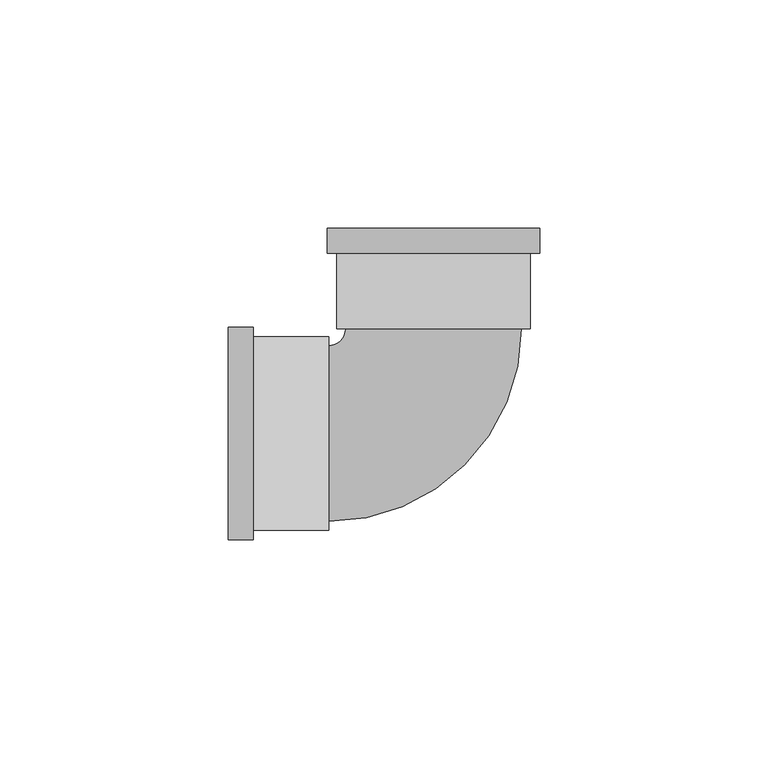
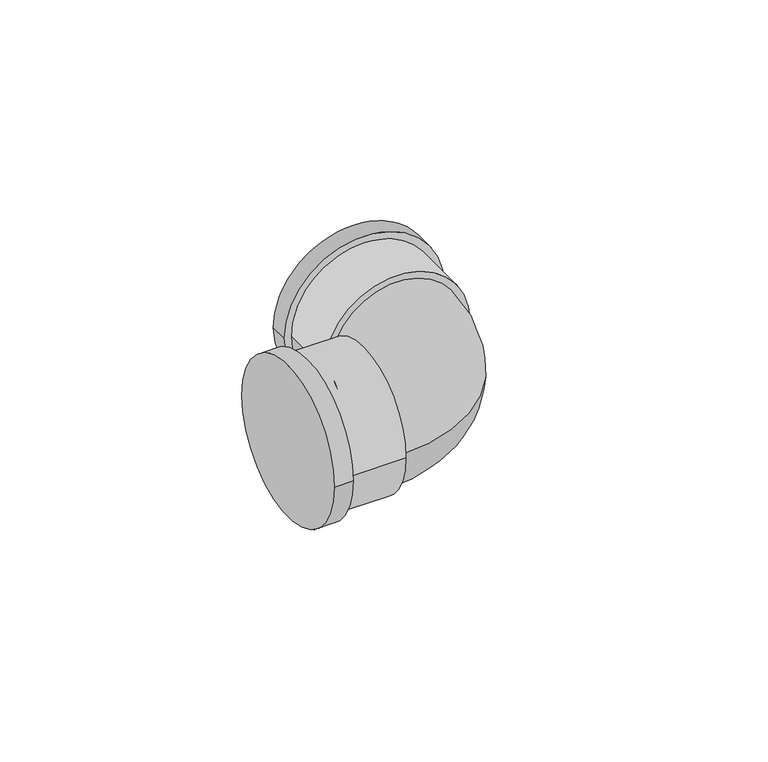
"""IFC4 building model written with IfcOpenShell, lengths in millimetres: pipe fitting geometry, Cotovelo - PVC - CW : Padrão."""

from ifc_helpers import new_model, si_unit, point, frame, origin, place, context, project, spatial, circle_curve, ellipse_curve, trimmed, source, transform, mapped, element, save
from ifc_brep_helpers import plane_surface, cylinder_surface, revolved_surface, advanced_brep


def pipe_fitting_6dd44d3f(model_context):
    return source(origin(), model_context, "Body", "AdvancedBrep", [
        advanced_brep(
        [(-45.0006117, -23.2925, 0.0), (-45.0006117, 23.2925, 0.0), (-39.5006117, -23.2925, 0.0), (-39.5006117, 23.2925, 0.0), (-39.5006117, -21.175, 0.0), (-39.5006117, 21.175, 0.0), (-23.0006117, 21.175, 0.0), (-23.0006117, -21.175, 0.0), (-23.0006117, -19.25, 0.0), (-23.0006117, 19.25, 0.0), (-19.2506117, 23.0000997, 0.0), (19.2493883, 23.0011236, 0.0), (21.1743883, 23.0011748, 0.0), (-21.1756117, 23.0000485, 0.0), (-23.2936967, 44.9999922, 0.0), (23.2913032, 45.0012311, 0.0), (21.1739495, 39.5011748, 0.0), (-21.1760505, 39.5000485, 0.0), (-23.2935505, 39.4999922, 0.0), (23.2914495, 39.5012311, 0.0)],
        [
            (0, 1, circle_curve(frame((-45.0006117, 0.0, 0.0), z_axis=(-1.0, 0.0, 0.0), x_axis=(0.0, 1.0, 0.0)), 23.2925)),
            (1, 0, circle_curve(frame((-45.0006117, 0.0, 0.0), z_axis=(-1.0, 0.0, 0.0), x_axis=(0.0, 1.0, 0.0)), 23.2925)),
            (2, 3, circle_curve(frame((-39.5006117, 0.0, 0.0), z_axis=(1.0, 0.0, 0.0), x_axis=(0.0, 1.0, 0.0)), 23.2925)),
            (3, 2, circle_curve(frame((-39.5006117, 0.0, 0.0), z_axis=(1.0, 0.0, 0.0), x_axis=(0.0, 1.0, 0.0)), 23.2925)),
            (4, 5, circle_curve(frame((-39.5006117, 0.0, 0.0), z_axis=(-1.0, 0.0, 0.0), x_axis=(0.0, -1.0, 0.0)), 21.175)),
            (5, 4, circle_curve(frame((-39.5006117, 0.0, 0.0), z_axis=(-1.0, 0.0, 0.0), x_axis=(0.0, -1.0, 0.0)), 21.175)),
            (0, 2),
            (3, 1),
            (6, 7, circle_curve(frame((-23.0006117, 0.0, 0.0), z_axis=(1.0, 0.0, 0.0), x_axis=(0.0, -1.0, 0.0)), 21.175)),
            (7, 6, circle_curve(frame((-23.0006117, 0.0, 0.0), z_axis=(1.0, 0.0, 0.0), x_axis=(0.0, -1.0, 0.0)), 21.175)),
            (8, 9, circle_curve(frame((-23.0006117, 0.0, 0.0), z_axis=(-1.0, 0.0, 0.0), x_axis=(0.0, 1.0, 0.0)), 19.25)),
            (9, 8, circle_curve(frame((-23.0006117, 0.0, 0.0), z_axis=(-1.0, 0.0, 0.0), x_axis=(0.0, 1.0, 0.0)), 19.25)),
            (6, 5),
            (4, 7),
            (10, 9, circle_curve(frame((-23.0006117, 23.0, 0.0), z_axis=(0.0, 0.0, -1.0), x_axis=(0.0, -1.0, 0.0)), 3.75)),
            (8, 11, circle_curve(frame((-23.0006117, 23.0, 0.0), z_axis=(0.0, 0.0, 1.0), x_axis=(0.0, -1.0, 0.0)), 42.25)),
            (11, 10, circle_curve(frame((-0.0006117, 23.0006117, 0.0), z_axis=(2.6593916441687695e-05, -0.9999999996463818, 0.0), x_axis=(-0.9999999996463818, -2.6593916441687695e-05, 0.0)), 19.25)),
            (10, 11, circle_curve(frame((-0.0006117, 23.0006117, 0.0), z_axis=(2.6593916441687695e-05, -0.9999999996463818, 0.0), x_axis=(-0.9999999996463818, -2.6593916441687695e-05, 0.0)), 19.25)),
            (12, 13, circle_curve(frame((-0.0006117, 23.0006117, 0.0), z_axis=(2.659391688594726e-05, -0.9999999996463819, 0.0), x_axis=(-0.9999999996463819, -2.659391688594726e-05, 0.0)), 21.175)),
            (13, 12, circle_curve(frame((-0.0006117, 23.0006117, 0.0), z_axis=(2.659391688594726e-05, -0.9999999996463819, 0.0), x_axis=(-0.9999999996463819, -2.659391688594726e-05, 0.0)), 21.175)),
            (14, 15, circle_curve(frame((-0.0011967, 45.0006117, 0.0), z_axis=(-2.6593916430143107e-05, 0.9999999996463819, 0.0), x_axis=(0.9999999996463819, 2.6593916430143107e-05, 0.0)), 23.2925)),
            (15, 14, circle_curve(frame((-0.0011967, 45.0006117, 0.0), z_axis=(-2.6593916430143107e-05, 0.9999999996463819, 0.0), x_axis=(0.9999999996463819, 2.6593916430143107e-05, 0.0)), 23.2925)),
            (12, 16),
            (16, 17, circle_curve(frame((-0.0010505, 39.5006117, 0.0), z_axis=(2.659391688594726e-05, -0.9999999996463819, 0.0), x_axis=(-0.9999999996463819, -2.659391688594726e-05, 0.0)), 21.175)),
            (17, 13),
            (17, 16, circle_curve(frame((-0.0010505, 39.5006117, 0.0), z_axis=(2.659391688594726e-05, -0.9999999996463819, 0.0), x_axis=(-0.9999999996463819, -2.659391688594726e-05, 0.0)), 21.175)),
            (18, 19, circle_curve(frame((-0.0010505, 39.5006117, 0.0), z_axis=(2.6593916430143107e-05, -0.9999999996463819, 0.0), x_axis=(0.9999999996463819, 2.6593916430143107e-05, 0.0)), 23.2925)),
            (19, 18, circle_curve(frame((-0.0010505, 39.5006117, 0.0), z_axis=(2.6593916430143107e-05, -0.9999999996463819, 0.0), x_axis=(0.9999999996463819, 2.6593916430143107e-05, 0.0)), 23.2925)),
            (14, 18),
            (19, 15),
        ],
        [
            plane_surface(frame((-45.0006117, 0.0, 0.0), z_axis=(-1.0, 0.0, 0.0), x_axis=(0.0, 0.0, 1.0))),
            plane_surface(frame((-39.5006117, 0.0, 0.0), z_axis=(1.0, 0.0, 0.0), x_axis=(0.0, 0.0, 1.0))),
            cylinder_surface(frame((-45.0006117, 0.0, 0.0), z_axis=(-1.0, 0.0, 0.0), x_axis=(0.0, 1.0, 0.0)), 23.2925),
            plane_surface(frame((-23.0006117, 0.0, 0.0), z_axis=(1.0, 0.0, 0.0), x_axis=(0.0, 0.0, 1.0))),
            cylinder_surface(frame((-23.0006117, 0.0, 0.0), z_axis=(1.0, 0.0, 0.0), x_axis=(0.0, -1.0, 0.0)), 21.175),
            revolved_surface(trimmed(ellipse_curve(frame((-23.0006117, 0.0, 0.0), z_axis=(-1.0, 0.0, 0.0), x_axis=(0.0, 1.0, 0.0)), 19.25, 19.25), [point((-23.0006117, -19.25, 0.0))], [point((-23.0006117, 19.25, 0.0))], True, "CARTESIAN"), (-23.0006117, 23.0, 0.0), (0.0, 0.0, 1.0)),
            revolved_surface(trimmed(ellipse_curve(frame((-23.0006117, 0.0, 0.0), z_axis=(-1.0, 0.0, 0.0), x_axis=(0.0, 1.0, 0.0)), 19.25, 19.25), [point((-23.0006117, 19.25, 0.0))], [point((-23.0006117, -19.25, 0.0))], True, "CARTESIAN"), (-23.0006117, 23.0, 0.0), (0.0, 0.0, 1.0)),
            plane_surface(frame((-0.0006117, 23.0006117, 0.0), z_axis=(2.659391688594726e-05, -0.9999999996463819, 0.0), x_axis=(0.0, 0.0, 1.0))),
            plane_surface(frame((-0.0011967, 45.0006117, 0.0), z_axis=(-2.659391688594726e-05, 0.9999999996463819, 0.0), x_axis=(0.0, 0.0, 1.0))),
            cylinder_surface(frame((-0.0006117, 23.0006117, 0.0), z_axis=(2.659391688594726e-05, -0.9999999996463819, 0.0), x_axis=(-0.9999999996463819, -2.659391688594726e-05, 0.0)), 21.175),
            plane_surface(frame((-0.0010505, 39.5006117, 0.0), z_axis=(2.6593916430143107e-05, -0.9999999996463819, 0.0), x_axis=(0.0, 0.0, 1.0))),
            cylinder_surface(frame((-0.0011967, 45.0006117, 0.0), z_axis=(-2.6593916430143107e-05, 0.9999999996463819, 0.0), x_axis=(0.9999999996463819, 2.6593916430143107e-05, 0.0)), 23.2925),
        ],
        [
            (0, [[1, 2]]),
            (1, [[3, 4], [5, 6]]),
            (2, [[-1, 7, -4, 8]]),
            (2, [[-2, -8, -3, -7]]),
            (3, [[9, 10], [11, 12]]),
            (4, [[-9, 13, -5, 14]]),
            (4, [[-10, -14, -6, -13]]),
            (5, [[15, -11, 16, 17]]),
            (6, [[-15, 18, -16, -12]]),
            (7, [[19, 20], [-17, -18]]),
            (8, [[21, 22]]),
            (9, [[-19, 23, 24, 25]]),
            (9, [[-20, -25, 26, -23]]),
            (10, [[27, 28], [-24, -26]]),
            (11, [[-21, 29, -28, 30]]),
            (11, [[-22, -30, -27, -29]]),
        ],
    ),
    ])


if __name__ == "__main__":
    model = new_model("IFC4")
    model_context = context("Model", 3, world=origin())
    ifc_project = project(units=[si_unit("LENGTHUNIT", "METRE", prefix="MILLI")], contexts=[model_context])
    site = spatial("IfcSite", under=ifc_project)
    building = spatial("IfcBuilding", under=site)
    placement = place(None, origin())
    pipe_fitting_shape = pipe_fitting_6dd44d3f(model_context)
    element("IfcPipeFitting", 1, ObjectType="Cotovelo - PVC - CW : Padrão", at=placement, inside=building, context=model_context, shape_type="MappedRepresentation", body=[
        mapped(pipe_fitting_shape, transform((0.0, 0.0, 0.0), x_axis=(1.0, 0.0, 0.0), y_axis=(0.0, 1.0, 0.0), z_axis=(0.0, 0.0, 1.0))),
    ])
    save(model, "model.ifc")
